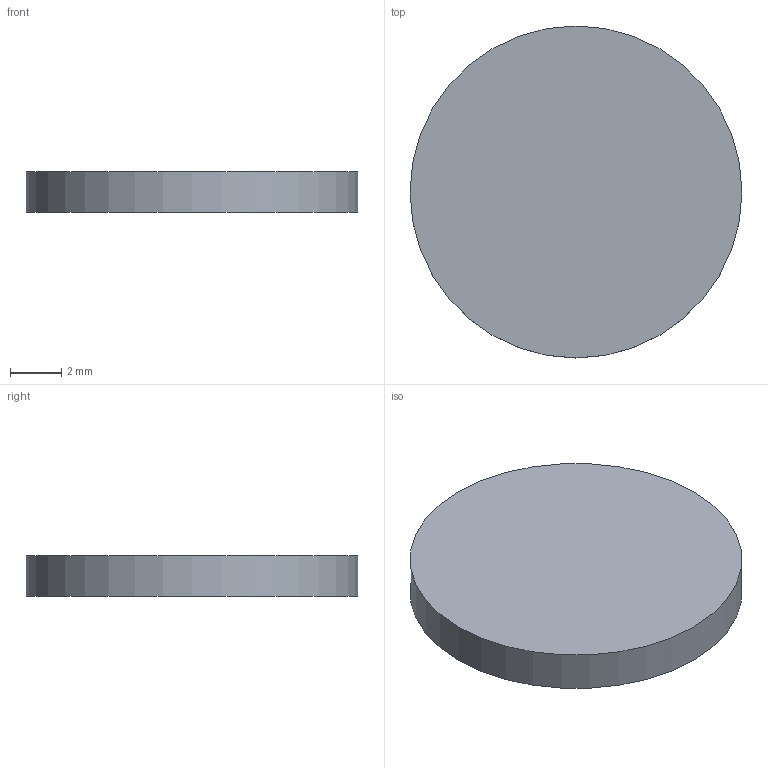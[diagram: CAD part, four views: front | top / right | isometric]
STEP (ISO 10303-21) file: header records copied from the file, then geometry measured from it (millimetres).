
FILE_DESCRIPTION(('Open CASCADE Model'),'2;1');
FILE_NAME('Open CASCADE Shape Model','2026-11-11T16:54:55',('Author'),( 'Open CASCADE'),'Open CASCADE STEP processor 7.9','Open CASCADE 7.9' ,'Unknown');
FILE_SCHEMA(('AUTOMOTIVE_DESIGN { 1 0 10303 214 1 1 1 1 }'));
Length unit declared in the file: millimetre
Products named in the file (1): Open CASCADE STEP translator 7.9 14
Bounding box: 13 x 13 x 1.6 mm (x, y, z)
Volume: 212.4 mm3; surface area: 330.8 mm2
Topology: 1 solids, 1 shells, 3 faces, 3 edges, 2 vertices
Faces by surface type: plane 2, cylinder 1
Full cylindrical faces by diameter (mm): 13 x1
Entity records: 108 total; most frequent: DIRECTION 19, CARTESIAN_POINT 15, AXIS2_PLACEMENT_3D 6, ORIENTED_EDGE 6, PCURVE 6, DEFINITIONAL_REPRESENTATION 6, LINE 5, VECTOR 5
